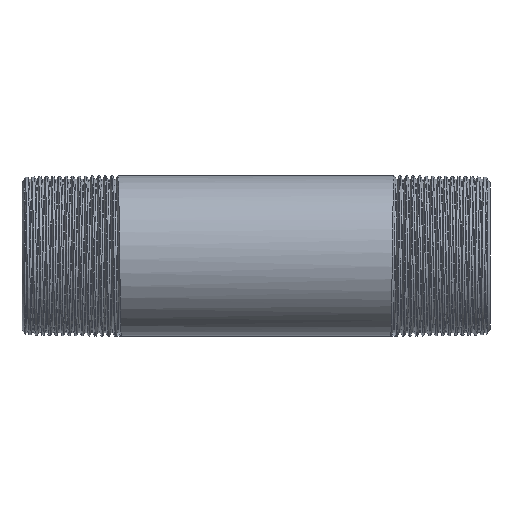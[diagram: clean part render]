
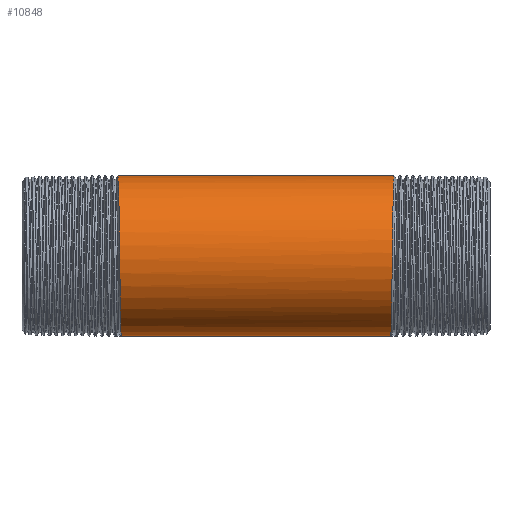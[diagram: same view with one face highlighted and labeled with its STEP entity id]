
A CAD part, front view. The second image highlights one B-rep face of the part: STEP entity #10848.
In plain terms, the highlighted cylindrical face has radius 8.6 mm (diameter 17.2 mm), a partial arc.
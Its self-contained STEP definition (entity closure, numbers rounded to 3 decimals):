
#93 =( BOUNDED_CURVE ( )  B_SPLINE_CURVE ( 2, ( #5167, #861, #10460, #11086, #10234, #5856, #10403, #4321, #2518 ),
 .UNSPECIFIED., .F., .T. ) 
 B_SPLINE_CURVE_WITH_KNOTS ( ( 3, 2, 2, 2, 3 ),
 ( 0., 0.008, 0.016, 0.023, 0.023 ),
 .UNSPECIFIED. ) 
 CURVE ( )  GEOMETRIC_REPRESENTATION_ITEM ( )  RATIONAL_B_SPLINE_CURVE ( ( 1., 0.866, 1., 0.866, 1., 0.866, 1., 1., 1. ) ) 
 REPRESENTATION_ITEM ( '' )  );
#232 = CARTESIAN_POINT ( 'NONE',  ( 14.62, -7.478, 4.248 ) ) ;
#290 = CARTESIAN_POINT ( 'NONE',  ( 14.505, -7.5, -4.208 ) ) ;
#453 = CARTESIAN_POINT ( 'NONE',  ( 14.543, -8.5, -1.441 ) ) ;
#778 = VERTEX_POINT ( 'NONE', #9888 ) ;
#848 = CARTESIAN_POINT ( 'NONE',  ( 14.502, -7.351, -4.465 ) ) ;
#861 = CARTESIAN_POINT ( 'NONE',  ( -14.446, -4.965, -8.6 ) ) ;
#904 = CARTESIAN_POINT ( 'NONE',  ( 14.473, -5.934, -6.251 ) ) ;
#962 = CARTESIAN_POINT ( 'NONE',  ( 14.388, 0., -8.6 ) ) ;
#1015 = VERTEX_POINT ( 'NONE', #5897 ) ;
#1044 = DIRECTION ( 'NONE',  ( 0., 0., 1. ) ) ;
#1085 = CARTESIAN_POINT ( 'NONE',  ( 14.613, -7.751, 3.734 ) ) ;
#1108 = DIRECTION ( 'NONE',  ( -1., 0., 0. ) ) ;
#1145 = CARTESIAN_POINT ( 'NONE',  ( 14.527, -8.214, -2.62 ) ) ;
#1305 = CARTESIAN_POINT ( 'NONE',  ( 14.736, -0.141, 8.599 ) ) ;
#1414 = EDGE_CURVE ( 'NONE', #778, #1015, #1901, .T. ) ;
#1624 = CARTESIAN_POINT ( 'NONE',  ( -14.388, 0., -8.6 ) ) ;
#1862 = CARTESIAN_POINT ( 'NONE',  ( 14.494, -6.999, -5.016 ) ) ;
#1901 = B_SPLINE_CURVE_WITH_KNOTS ( 'NONE', 3,
 ( #962, #3641, #2673, #3523, #8565, #9575, #4255, #5264, #7822, #7707, #2734, #9632, #904, #5154, #1862, #4366, #848, #8617, #5320, #290, #3869, #9757, #4600, #1992, #1145, #453, #3018, #7316, #6241, #3921, #7146, #2913, #5506, #3757, #4541, #1085, #7366, #8003, #232, #6300, #5448, #10624, #5608, #2106, #8167, #7208, #3811, #8911, #7263, #2793, #10740, #5558, #4656, #9072, #2967, #8059, #1305, #10791, #10682, #9928 ),
 .UNSPECIFIED., .F., .F.,
 ( 4, 2, 2, 2, 2, 2, 2, 2, 2, 2, 2, 2, 2, 2, 2, 2, 2, 2, 2, 1, 2, 2, 1, 2, 2, 2, 2, 2, 1, 1, 2, 4 ),
 ( 0., 0.001, 0.003, 0.004, 0.004, 0.004, 0.006, 0.007, 0.008, 0.008, 0.008, 0.009, 0.01, 0.012, 0.012, 0.012, 0.013, 0.015, 0.015, 0.015, 0.016, 0.016, 0.016, 0.016, 0.018, 0.02, 0.022, 0.023, 0.023, 0.023, 0.023, 0.023 ),
 .UNSPECIFIED. ) ;
#1992 = CARTESIAN_POINT ( 'NONE',  ( 14.52, -8.026, -3.124 ) ) ;
#2106 = CARTESIAN_POINT ( 'NONE',  ( 14.624, -7.315, 4.524 ) ) ;
#2518 = CARTESIAN_POINT ( 'NONE',  ( -14.738, 0., 8.6 ) ) ;
#2557 = VERTEX_POINT ( 'NONE', #4950 ) ;
#2600 = EDGE_CURVE ( 'NONE', #10646, #2557, #93, .T. ) ;
#2673 = CARTESIAN_POINT ( 'NONE',  ( 14.397, -0.824, -8.576 ) ) ;
#2683 = EDGE_LOOP ( 'NONE', ( #8476, #4300, #10376, #10603 ) ) ;
#2734 = CARTESIAN_POINT ( 'NONE',  ( 14.453, -4.755, -7.168 ) ) ;
#2793 = CARTESIAN_POINT ( 'NONE',  ( 14.699, -2.772, 8.16 ) ) ;
#2876 = CARTESIAN_POINT ( 'NONE',  ( -149.494, 0., 0. ) ) ;
#2913 = CARTESIAN_POINT ( 'NONE',  ( 14.581, -8.5, 1.348 ) ) ;
#2967 = CARTESIAN_POINT ( 'NONE',  ( 14.731, -0.493, 8.588 ) ) ;
#3004 = EDGE_CURVE ( 'NONE', #1015, #2557, #9086, .T. ) ;
#3018 = CARTESIAN_POINT ( 'NONE',  ( 14.552, -8.598, -0.766 ) ) ;
#3523 = CARTESIAN_POINT ( 'NONE',  ( 14.411, -1.843, -8.416 ) ) ;
#3602 = FACE_OUTER_BOUND ( 'NONE', #2683, .T. ) ;
#3641 = CARTESIAN_POINT ( 'NONE',  ( 14.392, -0.377, -8.6 ) ) ;
#3757 = CARTESIAN_POINT ( 'NONE',  ( 14.597, -8.237, 2.544 ) ) ;
#3811 = CARTESIAN_POINT ( 'NONE',  ( 14.641, -6.481, 5.681 ) ) ;
#3869 = CARTESIAN_POINT ( 'NONE',  ( 14.506, -7.524, -4.166 ) ) ;
#3921 = CARTESIAN_POINT ( 'NONE',  ( 14.572, -8.574, 0.686 ) ) ;
#4153 = DIRECTION ( 'NONE',  ( -1., 0., 0. ) ) ;
#4255 = CARTESIAN_POINT ( 'NONE',  ( 14.436, -3.651, -7.795 ) ) ;
#4300 = ORIENTED_EDGE ( 'NONE', *, *, #1414, .T. ) ;
#4321 = CARTESIAN_POINT ( 'NONE',  ( -14.738, 0., 8.6 ) ) ;
#4366 = CARTESIAN_POINT ( 'NONE',  ( 14.501, -7.295, -4.555 ) ) ;
#4541 = CARTESIAN_POINT ( 'NONE',  ( 14.604, -8.051, 3.062 ) ) ;
#4600 = CARTESIAN_POINT ( 'NONE',  ( 14.512, -7.739, -3.759 ) ) ;
#4656 = CARTESIAN_POINT ( 'NONE',  ( 14.722, -1.123, 8.531 ) ) ;
#4950 = CARTESIAN_POINT ( 'NONE',  ( -14.738, 0., 8.6 ) ) ;
#5154 = CARTESIAN_POINT ( 'NONE',  ( 14.488, -6.7, -5.421 ) ) ;
#5167 = CARTESIAN_POINT ( 'NONE',  ( -14.388, 0., -8.6 ) ) ;
#5264 = CARTESIAN_POINT ( 'NONE',  ( 14.443, -4.133, -7.544 ) ) ;
#5320 = CARTESIAN_POINT ( 'NONE',  ( 14.504, -7.454, -4.29 ) ) ;
#5448 = CARTESIAN_POINT ( 'NONE',  ( 14.622, -7.419, 4.349 ) ) ;
#5506 = CARTESIAN_POINT ( 'NONE',  ( 14.585, -8.444, 1.66 ) ) ;
#5558 = CARTESIAN_POINT ( 'NONE',  ( 14.718, -1.402, 8.49 ) ) ;
#5608 = CARTESIAN_POINT ( 'NONE',  ( 14.622, -7.396, 4.388 ) ) ;
#5856 = CARTESIAN_POINT ( 'NONE',  ( -14.679, -4.965, 8.6 ) ) ;
#5897 = CARTESIAN_POINT ( 'NONE',  ( 14.738, 0., 8.6 ) ) ;
#6241 = CARTESIAN_POINT ( 'NONE',  ( 14.567, -8.595, 0.341 ) ) ;
#6300 = CARTESIAN_POINT ( 'NONE',  ( 14.621, -7.439, 4.316 ) ) ;
#7146 = CARTESIAN_POINT ( 'NONE',  ( 14.574, -8.559, 0.855 ) ) ;
#7208 = CARTESIAN_POINT ( 'NONE',  ( 14.634, -6.84, 5.244 ) ) ;
#7250 = VECTOR ( 'NONE', #8294, 1000. ) ;
#7263 = CARTESIAN_POINT ( 'NONE',  ( 14.676, -4.333, 7.514 ) ) ;
#7316 = CARTESIAN_POINT ( 'NONE',  ( 14.565, -8.6, 0.168 ) ) ;
#7366 = CARTESIAN_POINT ( 'NONE',  ( 14.616, -7.647, 3.941 ) ) ;
#7707 = CARTESIAN_POINT ( 'NONE',  ( 14.451, -4.607, -7.264 ) ) ;
#7822 = CARTESIAN_POINT ( 'NONE',  ( 14.446, -4.297, -7.452 ) ) ;
#8003 = CARTESIAN_POINT ( 'NONE',  ( 14.619, -7.517, 4.178 ) ) ;
#8059 = CARTESIAN_POINT ( 'NONE',  ( 14.734, -0.246, 8.597 ) ) ;
#8167 = CARTESIAN_POINT ( 'NONE',  ( 14.626, -7.231, 4.658 ) ) ;
#8294 = DIRECTION ( 'NONE',  ( -1., 0., 0. ) ) ;
#8345 = EDGE_CURVE ( 'NONE', #778, #10646, #9418, .T. ) ;
#8476 = ORIENTED_EDGE ( 'NONE', *, *, #8345, .F. ) ;
#8515 = CARTESIAN_POINT ( 'NONE',  ( -149.494, 0., -8.6 ) ) ;
#8565 = CARTESIAN_POINT ( 'NONE',  ( 14.418, -2.416, -8.28 ) ) ;
#8617 = CARTESIAN_POINT ( 'NONE',  ( 14.504, -7.428, -4.334 ) ) ;
#8637 = CYLINDRICAL_SURFACE ( 'NONE', #9056, 8.6 ) ;
#8911 = CARTESIAN_POINT ( 'NONE',  ( 14.662, -5.287, 6.876 ) ) ;
#9056 = AXIS2_PLACEMENT_3D ( 'NONE', #2876, #1108, #1044 ) ;
#9072 = CARTESIAN_POINT ( 'NONE',  ( 14.728, -0.703, 8.572 ) ) ;
#9086 = LINE ( 'NONE', #10108, #7250 ) ;
#9418 = LINE ( 'NONE', #8515, #9963 ) ;
#9575 = CARTESIAN_POINT ( 'NONE',  ( 14.431, -3.335, -7.934 ) ) ;
#9632 = CARTESIAN_POINT ( 'NONE',  ( 14.465, -5.466, -6.676 ) ) ;
#9757 = CARTESIAN_POINT ( 'NONE',  ( 14.509, -7.642, -3.95 ) ) ;
#9888 = CARTESIAN_POINT ( 'NONE',  ( 14.388, 0., -8.6 ) ) ;
#9928 = CARTESIAN_POINT ( 'NONE',  ( 14.738, 0., 8.6 ) ) ;
#9963 = VECTOR ( 'NONE', #4153, 1000. ) ;
#10108 = CARTESIAN_POINT ( 'NONE',  ( -149.494, 0., 8.6 ) ) ;
#10234 = CARTESIAN_POINT ( 'NONE',  ( -14.621, -7.448, 4.3 ) ) ;
#10376 = ORIENTED_EDGE ( 'NONE', *, *, #3004, .T. ) ;
#10403 = CARTESIAN_POINT ( 'NONE',  ( -14.738, 0., 8.6 ) ) ;
#10460 = CARTESIAN_POINT ( 'NONE',  ( -14.504, -7.448, -4.3 ) ) ;
#10603 = ORIENTED_EDGE ( 'NONE', *, *, #2600, .F. ) ;
#10624 = CARTESIAN_POINT ( 'NONE',  ( 14.622, -7.414, 4.358 ) ) ;
#10646 = VERTEX_POINT ( 'NONE', #1624 ) ;
#10682 = CARTESIAN_POINT ( 'NONE',  ( 14.737, -0.033, 8.6 ) ) ;
#10740 = CARTESIAN_POINT ( 'NONE',  ( 14.706, -2.231, 8.325 ) ) ;
#10791 = CARTESIAN_POINT ( 'NONE',  ( 14.737, -0.07, 8.6 ) ) ;
#10848 = ADVANCED_FACE ( 'NONE', ( #3602 ), #8637, .T. ) ;
#11086 = CARTESIAN_POINT ( 'NONE',  ( -14.563, -9.93, 0. ) ) ;
